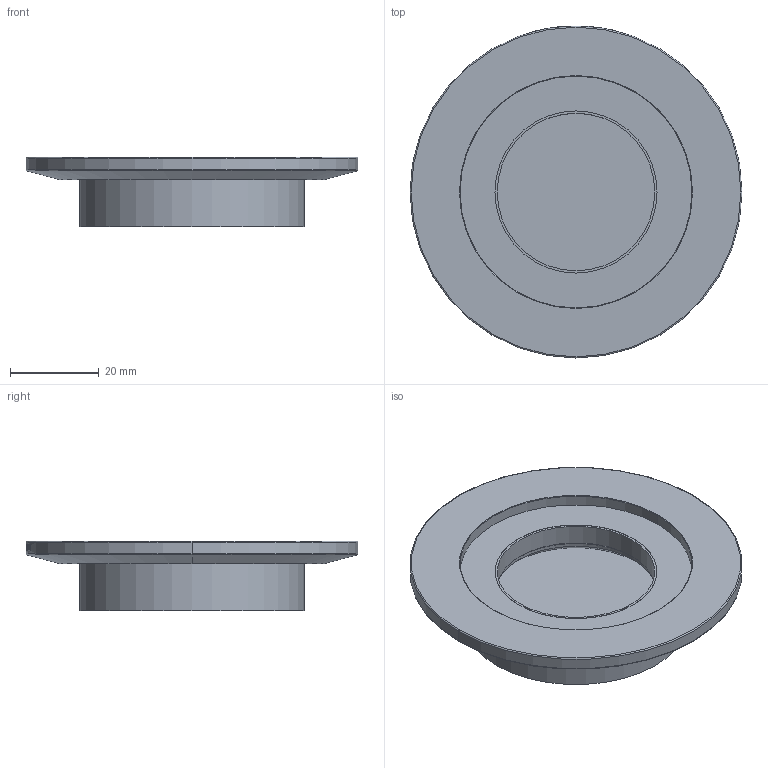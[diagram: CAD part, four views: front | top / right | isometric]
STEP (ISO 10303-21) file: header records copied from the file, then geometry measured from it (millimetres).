
FILE_DESCRIPTION(/* description */ ('Alibre Inc.'),/* implementation_level */ '2;1');
FILE_NAME(/* name */ 'export0',/* time_stamp */ '2009-03-04T07:12:31-08:00',/* author */ (''),/* organization */ (''),/* preprocessor_version */ 'ST-DEVELOPER v10',/* originating_system */ 'Alibre',/* authorisation */ '');
FILE_SCHEMA (('CONFIG_CONTROL_DESIGN'));
Length unit declared in the file: inch
Products named in the file (1): WRM S12121
Bounding box: 74.93 x 74.93 x 15.75 mm (x, y, z)
Volume: 25076.2 mm3; surface area: 13723.1 mm2
Topology: 1 solids, 1 shells, 315 faces, 828 edges, 549 vertices
Faces by surface type: bspline 138, plane 121, cylinder 44, cone 6, torus 5, sphere 1
Full cylindrical faces by diameter (mm): 35.56 x1, 36.576 x2, 44.783 x1, 45.212 x1, 50.8 x1
Entity records: 29864 total; most frequent: CARTESIAN_POINT 23371, ORIENTED_EDGE 1632, EDGE_CURVE 816, DIRECTION 733, VERTEX_POINT 546, B_SPLINE_CURVE_WITH_KNOTS 467, EDGE_LOOP 358, FACE_BOUND 358
